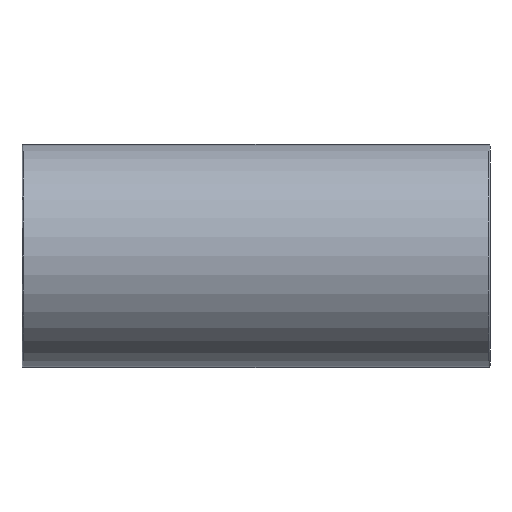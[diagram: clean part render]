
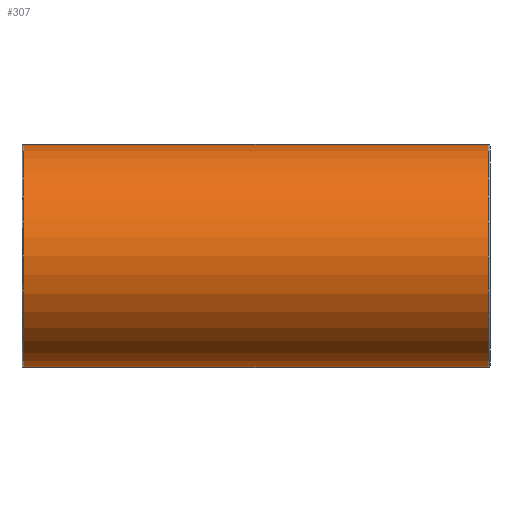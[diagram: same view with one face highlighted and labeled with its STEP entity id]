
A CAD part, front view. The second image highlights one B-rep face of the part: STEP entity #307.
In plain terms, the highlighted cylindrical face has radius 20.5 mm (diameter 41 mm), a full revolution.
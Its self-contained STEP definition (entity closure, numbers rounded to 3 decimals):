
#21=B_SPLINE_CURVE_WITH_KNOTS('',3,(#503,#504,#505,#506,#507,#508,#509,
#510,#511,#512,#513,#514,#515,#516,#517,#518,#519,#520,#521,#522,#523,#524,
#525,#526,#527,#528,#529,#530,#531,#532,#533,#534,#535,#536,#537,#538,#539,
#540,#541,#542,#543,#544,#545,#546,#547,#548,#549,#550,#551,#552,#553,#554,
#555,#556,#557,#558,#559,#560,#561,#562,#563,#564,#565,#566,#567,#568,#569,
#570,#571,#572,#573,#574,#575,#576),.UNSPECIFIED.,.T.,.F.,(4,2,2,2,2,2,
2,2,2,2,2,2,2,2,2,2,2,2,2,2,2,2,2,2,2,2,2,2,2,2,2,2,2,2,2,2,4),(0.,0.233,
0.466,0.932,1.398,1.864,2.276,
2.688,3.1,3.512,3.925,4.337,
4.749,5.161,5.627,6.093,6.559,
6.792,7.025,7.258,7.491,7.957,
8.423,8.889,9.301,9.713,10.125,
10.537,10.95,11.362,11.774,12.186,
12.652,13.118,13.584,13.817,14.05),
 .UNSPECIFIED.);
#22=FACE_BOUND('',#90,.T.);
#23=FACE_BOUND('',#91,.T.);
#39=CIRCLE('',#333,20.5);
#40=CIRCLE('',#334,20.5);
#54=CYLINDRICAL_SURFACE('',#332,20.5);
#66=FACE_OUTER_BOUND('',#89,.T.);
#89=EDGE_LOOP('',(#250));
#90=EDGE_LOOP('',(#251));
#91=EDGE_LOOP('',(#252));
#170=VERTEX_POINT('',#498);
#171=VERTEX_POINT('',#500);
#172=VERTEX_POINT('',#502);
#204=EDGE_CURVE('',#170,#170,#39,.T.);
#205=EDGE_CURVE('',#171,#171,#40,.T.);
#206=EDGE_CURVE('',#172,#172,#21,.T.);
#250=ORIENTED_EDGE('',*,*,#204,.F.);
#251=ORIENTED_EDGE('',*,*,#205,.F.);
#252=ORIENTED_EDGE('',*,*,#206,.F.);
#307=ADVANCED_FACE('',(#66,#22,#23),#54,.T.);
#332=AXIS2_PLACEMENT_3D('',#497,#397,#398);
#333=AXIS2_PLACEMENT_3D('',#499,#399,#400);
#334=AXIS2_PLACEMENT_3D('',#501,#401,#402);
#397=DIRECTION('center_axis',(1.,0.,0.));
#398=DIRECTION('ref_axis',(0.,1.,0.));
#399=DIRECTION('center_axis',(-1.,0.,0.));
#400=DIRECTION('ref_axis',(0.,-1.,0.));
#401=DIRECTION('center_axis',(1.,0.,0.));
#402=DIRECTION('ref_axis',(0.,-1.,0.));
#497=CARTESIAN_POINT('Origin',(0.,0.,
0.));
#498=CARTESIAN_POINT('',(-42.697,20.5,0.));
#499=CARTESIAN_POINT('Origin',(-42.697,0.,0.));
#500=CARTESIAN_POINT('',(42.697,20.5,0.));
#501=CARTESIAN_POINT('Origin',(42.697,0.,0.));
#502=CARTESIAN_POINT('',(0.,5.701,19.691));
#503=CARTESIAN_POINT('Ctrl Pts',(0.,5.701,
19.691));
#504=CARTESIAN_POINT('Ctrl Pts',(0.777,5.701,19.691));
#505=CARTESIAN_POINT('Ctrl Pts',(1.49,5.839,19.652));
#506=CARTESIAN_POINT('Ctrl Pts',(2.849,6.272,19.518));
#507=CARTESIAN_POINT('Ctrl Pts',(3.494,6.567,19.423));
#508=CARTESIAN_POINT('Ctrl Pts',(5.386,7.586,19.058));
#509=CARTESIAN_POINT('Ctrl Pts',(6.587,8.439,18.71));
#510=CARTESIAN_POINT('Ctrl Pts',(8.949,10.256,17.78));
#511=CARTESIAN_POINT('Ctrl Pts',(10.097,11.218,17.198));
#512=CARTESIAN_POINT('Ctrl Pts',(12.274,13.104,15.809));
#513=CARTESIAN_POINT('Ctrl Pts',(13.303,14.027,15.001));
#514=CARTESIAN_POINT('Ctrl Pts',(15.067,15.634,13.306));
#515=CARTESIAN_POINT('Ctrl Pts',(15.875,16.381,12.388));
#516=CARTESIAN_POINT('Ctrl Pts',(17.345,17.749,10.331));
#517=CARTESIAN_POINT('Ctrl Pts',(18.006,18.371,9.193));
#518=CARTESIAN_POINT('Ctrl Pts',(19.097,19.401,6.754));
#519=CARTESIAN_POINT('Ctrl Pts',(19.528,19.81,5.45));
#520=CARTESIAN_POINT('Ctrl Pts',(20.106,20.36,2.76));
#521=CARTESIAN_POINT('Ctrl Pts',(20.253,20.5,1.374));
#522=CARTESIAN_POINT('Ctrl Pts',(20.253,20.5,-1.374));
#523=CARTESIAN_POINT('Ctrl Pts',(20.106,20.36,-2.76));
#524=CARTESIAN_POINT('Ctrl Pts',(19.528,19.81,-5.45));
#525=CARTESIAN_POINT('Ctrl Pts',(19.097,19.401,-6.754));
#526=CARTESIAN_POINT('Ctrl Pts',(18.006,18.371,-9.193));
#527=CARTESIAN_POINT('Ctrl Pts',(17.345,17.749,-10.331));
#528=CARTESIAN_POINT('Ctrl Pts',(15.875,16.381,-12.388));
#529=CARTESIAN_POINT('Ctrl Pts',(15.067,15.634,-13.306));
#530=CARTESIAN_POINT('Ctrl Pts',(13.303,14.027,-15.001));
#531=CARTESIAN_POINT('Ctrl Pts',(12.274,13.104,-15.809));
#532=CARTESIAN_POINT('Ctrl Pts',(10.097,11.218,-17.198));
#533=CARTESIAN_POINT('Ctrl Pts',(8.949,10.256,-17.78));
#534=CARTESIAN_POINT('Ctrl Pts',(6.587,8.439,-18.71));
#535=CARTESIAN_POINT('Ctrl Pts',(5.386,7.586,-19.058));
#536=CARTESIAN_POINT('Ctrl Pts',(3.494,6.567,-19.423));
#537=CARTESIAN_POINT('Ctrl Pts',(2.849,6.272,-19.518));
#538=CARTESIAN_POINT('Ctrl Pts',(1.49,5.839,-19.652));
#539=CARTESIAN_POINT('Ctrl Pts',(0.777,5.701,-19.691));
#540=CARTESIAN_POINT('Ctrl Pts',(-0.777,5.701,-19.691));
#541=CARTESIAN_POINT('Ctrl Pts',(-1.49,5.839,-19.652));
#542=CARTESIAN_POINT('Ctrl Pts',(-2.849,6.272,-19.518));
#543=CARTESIAN_POINT('Ctrl Pts',(-3.494,6.567,-19.423));
#544=CARTESIAN_POINT('Ctrl Pts',(-5.386,7.586,-19.058));
#545=CARTESIAN_POINT('Ctrl Pts',(-6.587,8.439,-18.71));
#546=CARTESIAN_POINT('Ctrl Pts',(-8.949,10.256,-17.78));
#547=CARTESIAN_POINT('Ctrl Pts',(-10.097,11.218,-17.198));
#548=CARTESIAN_POINT('Ctrl Pts',(-12.274,13.104,-15.809));
#549=CARTESIAN_POINT('Ctrl Pts',(-13.303,14.027,-15.001));
#550=CARTESIAN_POINT('Ctrl Pts',(-15.067,15.634,-13.306));
#551=CARTESIAN_POINT('Ctrl Pts',(-15.875,16.381,-12.388));
#552=CARTESIAN_POINT('Ctrl Pts',(-17.345,17.749,-10.331));
#553=CARTESIAN_POINT('Ctrl Pts',(-18.006,18.371,-9.193));
#554=CARTESIAN_POINT('Ctrl Pts',(-19.097,19.401,-6.754));
#555=CARTESIAN_POINT('Ctrl Pts',(-19.528,19.81,-5.45));
#556=CARTESIAN_POINT('Ctrl Pts',(-20.106,20.36,-2.76));
#557=CARTESIAN_POINT('Ctrl Pts',(-20.253,20.5,-1.374));
#558=CARTESIAN_POINT('Ctrl Pts',(-20.253,20.5,1.374));
#559=CARTESIAN_POINT('Ctrl Pts',(-20.106,20.36,2.76));
#560=CARTESIAN_POINT('Ctrl Pts',(-19.528,19.81,5.45));
#561=CARTESIAN_POINT('Ctrl Pts',(-19.097,19.401,6.754));
#562=CARTESIAN_POINT('Ctrl Pts',(-18.006,18.371,9.193));
#563=CARTESIAN_POINT('Ctrl Pts',(-17.345,17.749,10.331));
#564=CARTESIAN_POINT('Ctrl Pts',(-15.875,16.381,12.388));
#565=CARTESIAN_POINT('Ctrl Pts',(-15.067,15.634,13.306));
#566=CARTESIAN_POINT('Ctrl Pts',(-13.303,14.027,15.001));
#567=CARTESIAN_POINT('Ctrl Pts',(-12.274,13.104,15.809));
#568=CARTESIAN_POINT('Ctrl Pts',(-10.097,11.218,17.198));
#569=CARTESIAN_POINT('Ctrl Pts',(-8.949,10.256,17.78));
#570=CARTESIAN_POINT('Ctrl Pts',(-6.587,8.439,18.71));
#571=CARTESIAN_POINT('Ctrl Pts',(-5.386,7.586,19.058));
#572=CARTESIAN_POINT('Ctrl Pts',(-3.494,6.567,19.423));
#573=CARTESIAN_POINT('Ctrl Pts',(-2.849,6.272,19.518));
#574=CARTESIAN_POINT('Ctrl Pts',(-1.49,5.839,19.652));
#575=CARTESIAN_POINT('Ctrl Pts',(-0.777,5.701,19.691));
#576=CARTESIAN_POINT('Ctrl Pts',(0.,5.701,
19.691));
